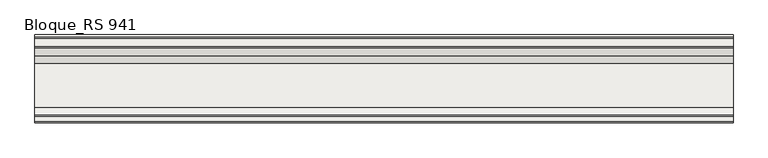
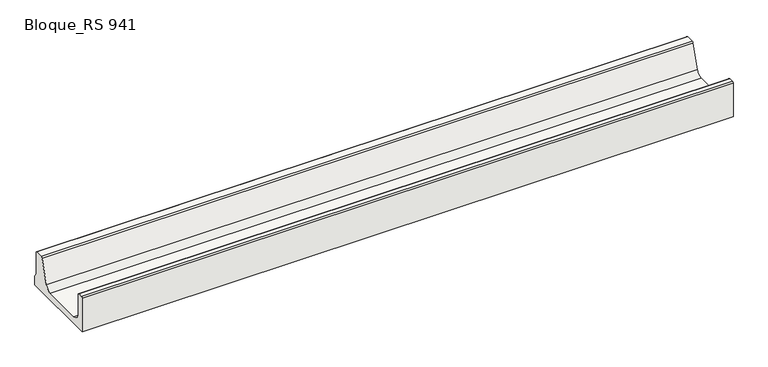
"""IFC4 building model written with IfcOpenShell, lengths in millimetres: slab geometry, ROSA GRES_RS 941 : Bloque_RS 941."""

from ifc_helpers import new_model, si_unit, point, frame, frame_2d, origin, place, context, project, spatial, polyline, circle_curve, trimmed, segment, composite_curve, outline, extrude, source, transform, mapped, element, save


def bloque_rs_941_d63500ad(model_context):
    return source(origin(), model_context, "Body", "SweptSolid", [
        extrude(outline(composite_curve([segment(polyline([(-290.7950654, 126.0), (-276.7901448, 126.0)]), True, "CONTINUOUS"), segment(trimmed(circle_curve(frame_2d((-276.7873115, 121.0029619)), 4.9970389), [point((-276.7901448, 126.0))], [point((-271.7950654, 121.221769))], False, "CARTESIAN"), True, "CONTINUOUS"), segment(polyline([(-271.7950654, 121.221769), (-271.7950654, 50.0)]), True, "CONTINUOUS"), segment(trimmed(circle_curve(frame_2d((-246.8549987, 49.9398968)), 24.9401391), [point((-271.7950654, 50.0))], [point((-246.7450654, 25.0))], True, "CARTESIAN"), True, "CONTINUOUS"), segment(polyline([(-246.7450654, 25.0), (-107.8238571, 25.0)]), True, "CONTINUOUS"), segment(trimmed(circle_curve(frame_2d((-107.6378199, 49.7467022)), 24.7474015), [point((-107.8238571, 25.0))], [point((-83.9689438, 42.5204875))], True, "CARTESIAN"), True, "CONTINUOUS"), segment(polyline([(-83.9689438, 42.5204875), (-58.8933079, 122.4959025)]), True, "CONTINUOUS"), segment(trimmed(circle_curve(frame_2d((-54.1351224, 121.0174239)), 4.9825925), [point((-58.8933079, 122.4959025))], [point((-54.1223252, 126.0))], False, "CARTESIAN"), True, "CONTINUOUS"), segment(polyline([(-54.1223252, 126.0), (-27.7946272, 126.0)]), True, "CONTINUOUS"), segment(trimmed(circle_curve(frame_2d((-27.7946272, 121.0)), 5.0), [point((-27.7946272, 126.0))], [point((-22.7946272, 121.0))], False, "CARTESIAN"), True, "CONTINUOUS"), segment(polyline([(-22.7946272, 121.0), (-22.7946272, 44.0), (-15.7946269, 32.0012714), (-15.7946269, 0.0), (-295.7950654, 0.0), (-295.7950654, 121.0)]), True, "CONTINUOUS"), segment(trimmed(circle_curve(frame_2d((-290.8048832, 121.0098178)), 4.9901918), [point((-295.7950654, 121.0))], [point((-290.7950654, 126.0))], False, "CARTESIAN"), True, "CONTINUOUS")], self_intersect=False)), frame((0.0, 0.0, 0.0), z_axis=(1.0, 0.0, 0.0), x_axis=(0.0, 1.0, 0.0)), (0.0, 0.0, 1.0), 2220.0),
    ])


if __name__ == "__main__":
    model = new_model("IFC4")
    model_context = context("Model", 3, world=origin())
    ifc_project = project(units=[si_unit("LENGTHUNIT", "METRE", prefix="MILLI")], contexts=[model_context])
    site = spatial("IfcSite", under=ifc_project)
    building = spatial("IfcBuilding", under=site)
    placement = place(None, origin())
    bloque_rs_941_shape = bloque_rs_941_d63500ad(model_context)
    element("IfcSlab", 1, ObjectType="ROSA GRES_RS 941 : Bloque_RS 941", at=placement, inside=building, context=model_context, shape_type="MappedRepresentation", body=[
        mapped(bloque_rs_941_shape, transform((0.0, 0.0, 0.0), x_axis=(1.0, 0.0, 0.0), y_axis=(0.0, 1.0, 0.0), z_axis=(0.0, 0.0, 1.0))),
    ])
    save(model, "model.ifc")
